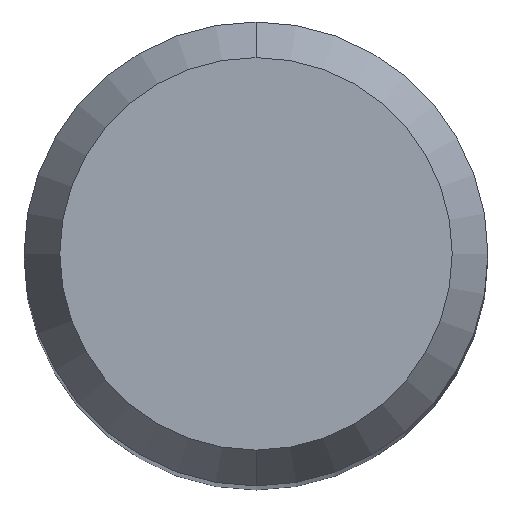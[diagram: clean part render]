
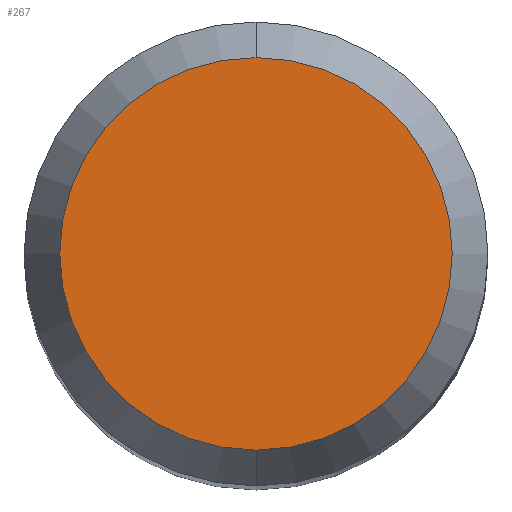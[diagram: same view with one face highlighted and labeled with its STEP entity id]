
A CAD part, top view. The second image highlights one B-rep face of the part: STEP entity #267.
In plain terms, the highlighted planar face has unit normal (0, 0, 1).
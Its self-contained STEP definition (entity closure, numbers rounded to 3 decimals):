
#153=EDGE_CURVE('',#377,#335,#405,.T.);
#155=EDGE_CURVE('',#335,#377,#407,.T.);
#267=ADVANCED_FACE('',(#528),#529,.T.);
#335=VERTEX_POINT('',#605);
#377=VERTEX_POINT('',#651);
#405=CIRCLE('',#672,2.538);
#407=CIRCLE('',#675,2.538);
#528=FACE_OUTER_BOUND('',#986,.T.);
#529=PLANE('',#987);
#605=CARTESIAN_POINT('',(0.,-2.538,0.0));
#651=CARTESIAN_POINT('',(0.0,2.538,0.0));
#672=AXIS2_PLACEMENT_3D('',#1221,#1222,#1223);
#675=AXIS2_PLACEMENT_3D('',#1224,#1225,#1226);
#986=EDGE_LOOP('',(#1351,#1352));
#987=AXIS2_PLACEMENT_3D('',#1353,#1354,#1355);
#1221=CARTESIAN_POINT('',(0.0,0.0,0.0));
#1222=DIRECTION('',(0.0,0.0,-1.0));
#1223=DIRECTION('',(0.0,1.0,0.0));
#1224=CARTESIAN_POINT('',(0.0,0.0,0.0));
#1225=DIRECTION('',(0.0,0.0,-1.0));
#1226=DIRECTION('',(0.0,1.0,0.0));
#1351=ORIENTED_EDGE('',*,*,#153,.F.);
#1352=ORIENTED_EDGE('',*,*,#155,.F.);
#1353=CARTESIAN_POINT('',(0.0,1.269,0.0));
#1354=DIRECTION('',(-0.0,0.0,1.0));
#1355=DIRECTION('',(0.0,-1.0,0.0));
